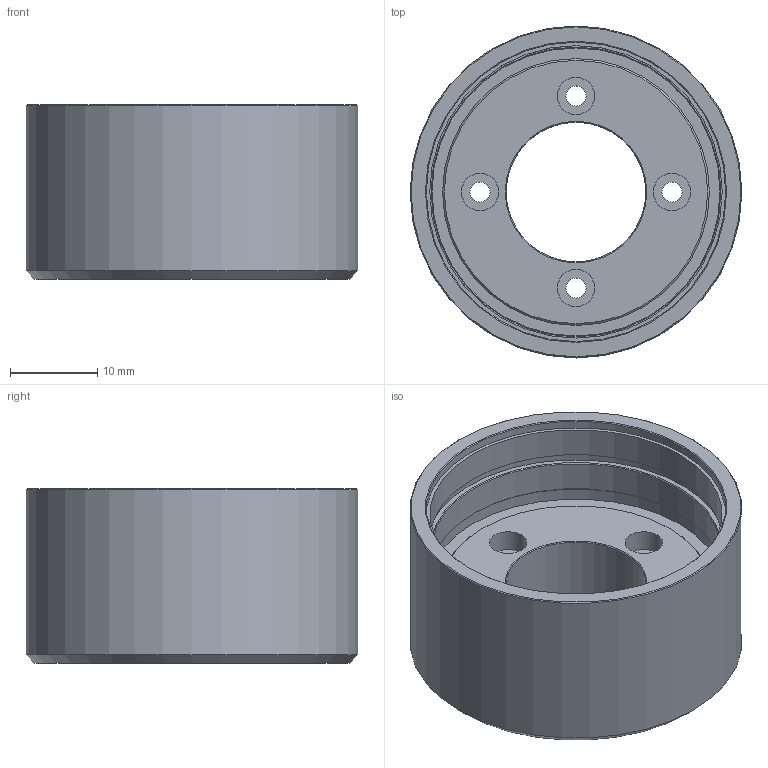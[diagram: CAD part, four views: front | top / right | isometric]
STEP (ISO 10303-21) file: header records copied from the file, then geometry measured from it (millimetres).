
FILE_DESCRIPTION(/* description */ (''),/* implementation_level */ '2;1');
FILE_NAME(/* name */ '38-1_flange_b.stp',/* time_stamp */ '2016-09-15T17:52:16+02:00',/* author */ ('DR. FRITZ FAULHABER GmbH & Co. KG'),/* organization */ ('DR. FRITZ FAULHABER GmbH & Co. KG'),/* preprocessor_version */ 'ST-DEVELOPER v16',/* originating_system */ 'SIEMENS PLM Software NX 10.0',/* authorisation */ '');
FILE_SCHEMA (('AUTOMOTIVE_DESIGN { 1 0 10303 214 3 1 1 1 }'));
Length unit declared in the file: millimetre
Products named in the file (1): huge1AD871C9jgz8
Bounding box: 38 x 38 x 20 mm (x, y, z)
Volume: 11182.6 mm3; surface area: 6186.4 mm2
Topology: 1 solids, 1 shells, 34 faces, 62 edges, 39 vertices
Faces by surface type: cylinder 15, plane 11, cone 8
Full cylindrical faces by diameter (mm): 2.3 x4, 4.3 x4, 16 x1, 33 x1, 33.4 x1, 33.5 x1, 34.3 x2, 38 x1
Entity records: 776 total; most frequent: DIRECTION 146, CARTESIAN_POINT 111, FACE_BOUND 76, EDGE_LOOP 76, ORIENTED_EDGE 76, AXIS2_PLACEMENT_3D 73, VERTEX_POINT 38, EDGE_CURVE 38
